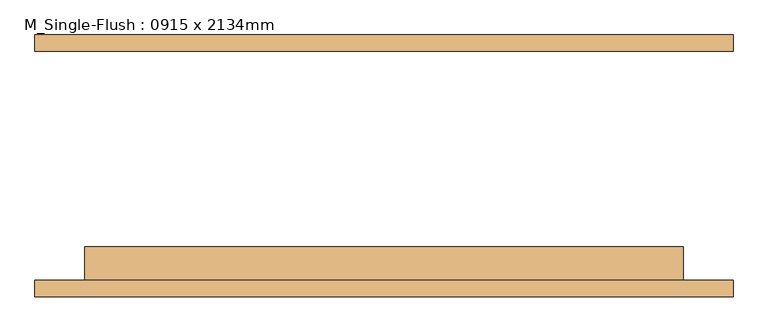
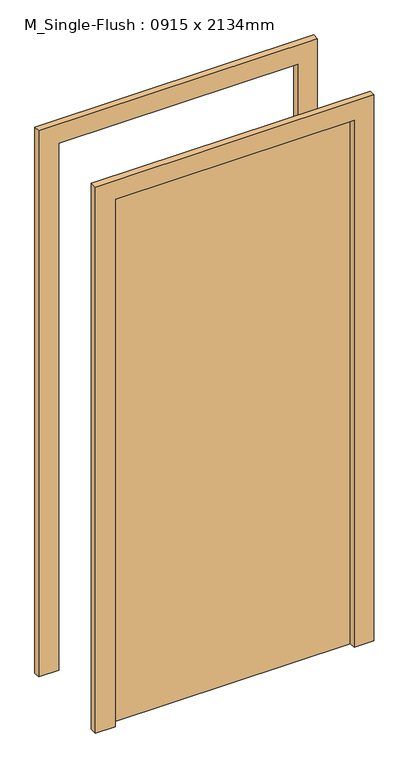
"""IFC4 building model written with IfcOpenShell, lengths in millimetres: door geometry, M_Single-Flush : 0915 x 2134mm."""

from ifc_helpers import new_model, si_unit, frame, origin, origin_with_axes, place, context, project, spatial, polyline, outline, extrude, source, transform, mapped, element, save


def m_single_flush_0915_x_2134mm_70678a7c(model_context):
    return source(origin(), model_context, "Body", "SweptSolid", [
        extrude(outline(polyline([(2210.0, -533.5), (0.0, -533.5), (0.0, -457.5), (2134.0, -457.5), (2134.0, 457.5), (0.0, 457.5), (0.0, 533.5), (2210.0, 533.5), (2210.0, -533.5)])), frame((0.0, -200.0, 0.0), z_axis=(0.0, 1.0, 0.0), x_axis=(0.0, 0.0, 1.0)), (0.0, 0.0, 1.0), 25.0),
        extrude(outline(polyline([(2210.0, 533.5), (2210.0, -533.5), (0.0, -533.5), (0.0, -457.5), (2134.0, -457.5), (2134.0, 457.5), (0.0, 457.5), (0.0, 533.5), (2210.0, 533.5)])), frame((0.0, 175.0, 0.0), z_axis=(0.0, 1.0, 0.0), x_axis=(0.0, 0.0, 1.0)), (0.0, 0.0, 1.0), 25.0),
        extrude(outline(polyline([(457.5, -124.0), (457.5, -175.0), (-457.5, -175.0), (-457.5, -124.0), (457.5, -124.0)])), origin_with_axes(), (0.0, 0.0, 1.0), 2134.0),
    ])


if __name__ == "__main__":
    model = new_model("IFC4")
    model_context = context("Model", 3, world=origin())
    ifc_project = project(units=[si_unit("LENGTHUNIT", "METRE", prefix="MILLI")], contexts=[model_context])
    site = spatial("IfcSite", under=ifc_project)
    building = spatial("IfcBuilding", under=site)
    placement = place(None, origin())
    m_single_flush_0915_x_2134mm_shape = m_single_flush_0915_x_2134mm_70678a7c(model_context)
    element("IfcDoor", 1, ObjectType="M_Single-Flush : 0915 x 2134mm", at=placement, inside=building, context=model_context, shape_type="MappedRepresentation", body=[
        mapped(m_single_flush_0915_x_2134mm_shape, transform((0.0, 0.0, 0.0), x_axis=(1.0, 0.0, 0.0), y_axis=(0.0, 1.0, 0.0), z_axis=(0.0, 0.0, 1.0))),
    ])
    save(model, "model.ifc")
